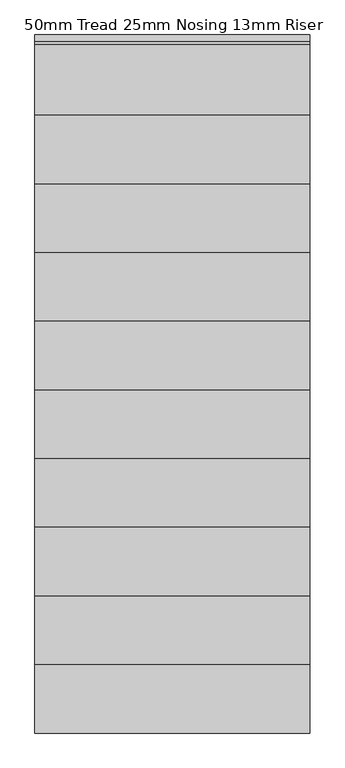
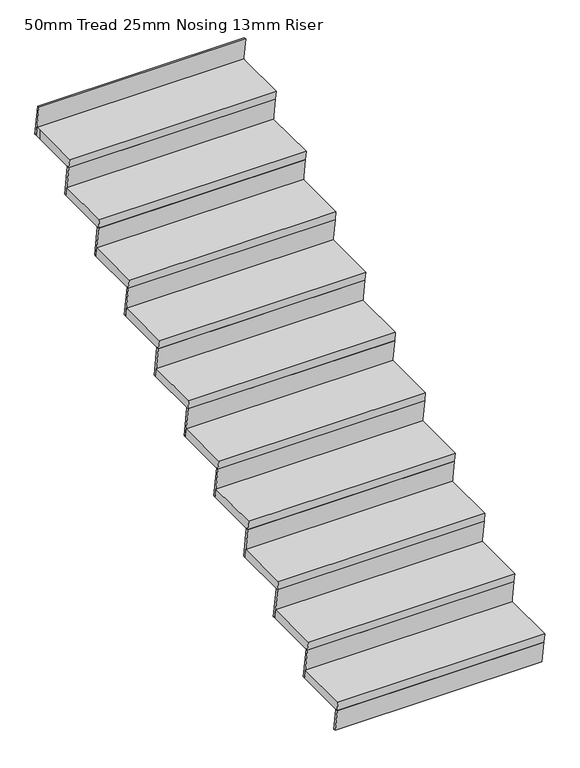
"""IFC4 building model written with IfcOpenShell, lengths in millimetres: stair flight geometry, 50mm Tread 25mm Nosing 13mm Riser."""

from ifc_helpers import new_model, si_unit, origin, place, context, project, spatial, faceted_brep, source, transform, mapped, element, save


def stair_flight_50mm_tread_25mm_nosing_13mm_riser_00f31970(model_context):
    return source(origin(), model_context, "Body", "Brep", [
        faceted_brep([(3668.6567657, -13073.8611817, 172.7272727), (3668.6567657, -13066.6243396, 122.7272727), (2568.6567657, -13066.6243396, 122.7272727), (2568.6567657, -13073.8611817, 172.7272727), (2568.6567657, -13373.8611817, 172.7272727), (3668.6567657, -13373.8611817, 172.7272727), (3668.6567657, -13366.6243396, 122.7272727), (2568.6567657, -13366.6243396, 122.7272727)], [[[0, 1, 2, 3]], [[3, 4, 5, 0]], [[2, 1, 6, 7]], [[4, 3, 2, 7]], [[0, 5, 6, 1]], [[5, 4, 7, 6]]]),
        faceted_brep([(3668.6567657, -13366.6243396, 122.7272727), (3668.6567657, -13348.8611817, 0.0), (3668.6567657, -13336.2309306, 0.0), (3668.6567657, -13353.9940885, 122.7272727), (2568.6567657, -13366.6243396, 122.7272727), (2568.6567657, -13353.9940885, 122.7272727), (2568.6567657, -13336.2309306, 0.0), (2568.6567657, -13348.8611817, 0.0)], [[[0, 1, 2, 3]], [[4, 5, 6, 7]], [[1, 0, 4, 7]], [[2, 1, 7, 6]], [[3, 2, 6, 5]], [[0, 3, 5, 4]]]),
        faceted_brep([(3668.6567657, -13091.6243396, 295.4545455), (3668.6567657, -13066.6243396, 122.7272727), (3668.6567657, -13053.9940885, 122.7272727), (3668.6567657, -13078.9940885, 295.4545455), (2568.6567657, -13091.6243396, 295.4545455), (2568.6567657, -13078.9940885, 295.4545455), (2568.6567657, -13053.9940885, 122.7272727), (2568.6567657, -13066.6243396, 122.7272727)], [[[0, 1, 2, 3]], [[4, 5, 6, 7]], [[1, 0, 4, 7]], [[2, 1, 7, 6]], [[3, 2, 6, 5]], [[0, 3, 5, 4]]]),
        faceted_brep([(2568.6567657, -12798.8611817, 345.4545455), (2568.6567657, -13098.8611817, 345.4545455), (3668.6567657, -13098.8611817, 345.4545455), (3668.6567657, -12798.8611817, 345.4545455), (2568.6567657, -12791.6243396, 295.4545455), (3668.6567657, -12791.6243396, 295.4545455), (3668.6567657, -13091.6243396, 295.4545455), (2568.6567657, -13091.6243396, 295.4545455)], [[[0, 1, 2, 3]], [[4, 5, 6, 7]], [[1, 0, 4, 7]], [[3, 2, 6, 5]], [[3, 5, 4, 0]], [[2, 1, 7, 6]]]),
        faceted_brep([(3668.6567657, -12816.6243396, 468.1818182), (3668.6567657, -12791.6243396, 295.4545455), (3668.6567657, -12778.9940885, 295.4545455), (3668.6567657, -12803.9940885, 468.1818182), (2568.6567657, -12816.6243396, 468.1818182), (2568.6567657, -12803.9940885, 468.1818182), (2568.6567657, -12778.9940885, 295.4545455), (2568.6567657, -12791.6243396, 295.4545455)], [[[0, 1, 2, 3]], [[4, 5, 6, 7]], [[1, 0, 4, 7]], [[2, 1, 7, 6]], [[3, 2, 6, 5]], [[0, 3, 5, 4]]]),
        faceted_brep([(2568.6567657, -12523.8611817, 518.1818182), (2568.6567657, -12823.8611817, 518.1818182), (3668.6567657, -12823.8611817, 518.1818182), (3668.6567657, -12523.8611817, 518.1818182), (2568.6567657, -12516.6243396, 468.1818182), (3668.6567657, -12516.6243396, 468.1818182), (3668.6567657, -12816.6243396, 468.1818182), (2568.6567657, -12816.6243396, 468.1818182)], [[[0, 1, 2, 3]], [[4, 5, 6, 7]], [[1, 0, 4, 7]], [[3, 2, 6, 5]], [[3, 5, 4, 0]], [[2, 1, 7, 6]]]),
        faceted_brep([(3668.6567657, -12541.6243396, 640.9090909), (3668.6567657, -12516.6243396, 468.1818182), (3668.6567657, -12503.9940885, 468.1818182), (3668.6567657, -12528.9940885, 640.9090909), (2568.6567657, -12541.6243396, 640.9090909), (2568.6567657, -12528.9940885, 640.9090909), (2568.6567657, -12503.9940885, 468.1818182), (2568.6567657, -12516.6243396, 468.1818182)], [[[0, 1, 2, 3]], [[4, 5, 6, 7]], [[1, 0, 4, 7]], [[2, 1, 7, 6]], [[3, 2, 6, 5]], [[0, 3, 5, 4]]]),
        faceted_brep([(2568.6567657, -12248.8611817, 690.9090909), (2568.6567657, -12548.8611817, 690.9090909), (3668.6567657, -12548.8611817, 690.9090909), (3668.6567657, -12248.8611817, 690.9090909), (2568.6567657, -12241.6243396, 640.9090909), (3668.6567657, -12241.6243396, 640.9090909), (3668.6567657, -12541.6243396, 640.9090909), (2568.6567657, -12541.6243396, 640.9090909)], [[[0, 1, 2, 3]], [[4, 5, 6, 7]], [[1, 0, 4, 7]], [[3, 2, 6, 5]], [[3, 5, 4, 0]], [[2, 1, 7, 6]]]),
        faceted_brep([(3668.6567657, -12266.6243396, 813.6363636), (3668.6567657, -12241.6243396, 640.9090909), (3668.6567657, -12228.9940885, 640.9090909), (3668.6567657, -12253.9940885, 813.6363636), (2568.6567657, -12266.6243396, 813.6363636), (2568.6567657, -12253.9940885, 813.6363636), (2568.6567657, -12228.9940885, 640.9090909), (2568.6567657, -12241.6243396, 640.9090909)], [[[0, 1, 2, 3]], [[4, 5, 6, 7]], [[1, 0, 4, 7]], [[2, 1, 7, 6]], [[3, 2, 6, 5]], [[0, 3, 5, 4]]]),
        faceted_brep([(2568.6567657, -11973.8611817, 863.6363636), (2568.6567657, -12273.8611817, 863.6363636), (3668.6567657, -12273.8611817, 863.6363636), (3668.6567657, -11973.8611817, 863.6363636), (2568.6567657, -11966.6243396, 813.6363636), (3668.6567657, -11966.6243396, 813.6363636), (3668.6567657, -12266.6243396, 813.6363636), (2568.6567657, -12266.6243396, 813.6363636)], [[[0, 1, 2, 3]], [[4, 5, 6, 7]], [[1, 0, 4, 7]], [[3, 2, 6, 5]], [[3, 5, 4, 0]], [[2, 1, 7, 6]]]),
        faceted_brep([(3668.6567657, -11991.6243396, 986.3636364), (3668.6567657, -11966.6243396, 813.6363636), (3668.6567657, -11953.9940885, 813.6363636), (3668.6567657, -11978.9940885, 986.3636364), (2568.6567657, -11991.6243396, 986.3636364), (2568.6567657, -11978.9940885, 986.3636364), (2568.6567657, -11953.9940885, 813.6363636), (2568.6567657, -11966.6243396, 813.6363636)], [[[0, 1, 2, 3]], [[4, 5, 6, 7]], [[1, 0, 4, 7]], [[2, 1, 7, 6]], [[3, 2, 6, 5]], [[0, 3, 5, 4]]]),
        faceted_brep([(2568.6567657, -11698.8611817, 1036.3636364), (2568.6567657, -11998.8611817, 1036.3636364), (3668.6567657, -11998.8611817, 1036.3636364), (3668.6567657, -11698.8611817, 1036.3636364), (2568.6567657, -11691.6243396, 986.3636364), (3668.6567657, -11691.6243396, 986.3636364), (3668.6567657, -11991.6243396, 986.3636364), (2568.6567657, -11991.6243396, 986.3636364)], [[[0, 1, 2, 3]], [[4, 5, 6, 7]], [[1, 0, 4, 7]], [[3, 2, 6, 5]], [[3, 5, 4, 0]], [[2, 1, 7, 6]]]),
        faceted_brep([(3668.6567657, -11716.6243396, 1159.0909091), (3668.6567657, -11691.6243396, 986.3636364), (3668.6567657, -11678.9940885, 986.3636364), (3668.6567657, -11703.9940885, 1159.0909091), (2568.6567657, -11716.6243396, 1159.0909091), (2568.6567657, -11703.9940885, 1159.0909091), (2568.6567657, -11678.9940885, 986.3636364), (2568.6567657, -11691.6243396, 986.3636364)], [[[0, 1, 2, 3]], [[4, 5, 6, 7]], [[1, 0, 4, 7]], [[2, 1, 7, 6]], [[3, 2, 6, 5]], [[0, 3, 5, 4]]]),
        faceted_brep([(2568.6567657, -11423.8611817, 1209.0909091), (2568.6567657, -11723.8611817, 1209.0909091), (3668.6567657, -11723.8611817, 1209.0909091), (3668.6567657, -11423.8611817, 1209.0909091), (2568.6567657, -11416.6243396, 1159.0909091), (3668.6567657, -11416.6243396, 1159.0909091), (3668.6567657, -11716.6243396, 1159.0909091), (2568.6567657, -11716.6243396, 1159.0909091)], [[[0, 1, 2, 3]], [[4, 5, 6, 7]], [[1, 0, 4, 7]], [[3, 2, 6, 5]], [[3, 5, 4, 0]], [[2, 1, 7, 6]]]),
        faceted_brep([(3668.6567657, -11441.6243396, 1331.8181818), (3668.6567657, -11416.6243396, 1159.0909091), (3668.6567657, -11403.9940885, 1159.0909091), (3668.6567657, -11428.9940885, 1331.8181818), (2568.6567657, -11441.6243396, 1331.8181818), (2568.6567657, -11428.9940885, 1331.8181818), (2568.6567657, -11403.9940885, 1159.0909091), (2568.6567657, -11416.6243396, 1159.0909091)], [[[0, 1, 2, 3]], [[4, 5, 6, 7]], [[1, 0, 4, 7]], [[2, 1, 7, 6]], [[3, 2, 6, 5]], [[0, 3, 5, 4]]]),
        faceted_brep([(2568.6567657, -11148.8611817, 1381.8181818), (2568.6567657, -11448.8611817, 1381.8181818), (3668.6567657, -11448.8611817, 1381.8181818), (3668.6567657, -11148.8611817, 1381.8181818), (2568.6567657, -11141.6243396, 1331.8181818), (3668.6567657, -11141.6243396, 1331.8181818), (3668.6567657, -11441.6243396, 1331.8181818), (2568.6567657, -11441.6243396, 1331.8181818)], [[[0, 1, 2, 3]], [[4, 5, 6, 7]], [[1, 0, 4, 7]], [[3, 2, 6, 5]], [[3, 5, 4, 0]], [[2, 1, 7, 6]]]),
        faceted_brep([(3668.6567657, -11166.6243396, 1504.5454545), (3668.6567657, -11141.6243396, 1331.8181818), (3668.6567657, -11128.9940885, 1331.8181818), (3668.6567657, -11153.9940885, 1504.5454545), (2568.6567657, -11166.6243396, 1504.5454545), (2568.6567657, -11153.9940885, 1504.5454545), (2568.6567657, -11128.9940885, 1331.8181818), (2568.6567657, -11141.6243396, 1331.8181818)], [[[0, 1, 2, 3]], [[4, 5, 6, 7]], [[1, 0, 4, 7]], [[2, 1, 7, 6]], [[3, 2, 6, 5]], [[0, 3, 5, 4]]]),
        faceted_brep([(2568.6567657, -10873.8611817, 1554.5454545), (2568.6567657, -11173.8611817, 1554.5454545), (3668.6567657, -11173.8611817, 1554.5454545), (3668.6567657, -10873.8611817, 1554.5454545), (2568.6567657, -10866.6243396, 1504.5454545), (3668.6567657, -10866.6243396, 1504.5454545), (3668.6567657, -11166.6243396, 1504.5454545), (2568.6567657, -11166.6243396, 1504.5454545)], [[[0, 1, 2, 3]], [[4, 5, 6, 7]], [[1, 0, 4, 7]], [[3, 2, 6, 5]], [[3, 5, 4, 0]], [[2, 1, 7, 6]]]),
        faceted_brep([(3668.6567657, -10616.6243396, 1850.0), (3668.6567657, -10591.6243396, 1677.2727273), (3668.6567657, -10578.9940885, 1677.2727273), (3668.6567657, -10603.9940885, 1850.0), (2568.6567657, -10616.6243396, 1850.0), (2568.6567657, -10603.9940885, 1850.0), (2568.6567657, -10578.9940885, 1677.2727273), (2568.6567657, -10591.6243396, 1677.2727273)], [[[0, 1, 2, 3]], [[4, 5, 6, 7]], [[1, 0, 4, 7]], [[2, 1, 7, 6]], [[3, 2, 6, 5]], [[0, 3, 5, 4]]]),
        faceted_brep([(3668.6567657, -10891.6243396, 1677.2727273), (3668.6567657, -10866.6243396, 1504.5454545), (3668.6567657, -10853.9940885, 1504.5454545), (3668.6567657, -10878.9940885, 1677.2727273), (2568.6567657, -10891.6243396, 1677.2727273), (2568.6567657, -10878.9940885, 1677.2727273), (2568.6567657, -10853.9940885, 1504.5454545), (2568.6567657, -10866.6243396, 1504.5454545)], [[[0, 1, 2, 3]], [[4, 5, 6, 7]], [[1, 0, 4, 7]], [[2, 1, 7, 6]], [[3, 2, 6, 5]], [[0, 3, 5, 4]]]),
        faceted_brep([(2568.6567657, -10598.8611817, 1727.2727273), (2568.6567657, -10623.8611817, 1727.2727273), (2568.6567657, -10898.8611817, 1727.2727273), (3668.6567657, -10898.8611817, 1727.2727273), (3668.6567657, -10623.8611817, 1727.2727273), (3668.6567657, -10598.8611817, 1727.2727273), (2568.6567657, -10591.6243396, 1677.2727273), (3668.6567657, -10591.6243396, 1677.2727273), (3668.6567657, -10623.8611817, 1677.2727273), (3668.6567657, -10891.6243396, 1677.2727273), (2568.6567657, -10891.6243396, 1677.2727273), (2568.6567657, -10623.8611817, 1677.2727273)], [[[0, 1, 2, 3, 4, 5]], [[6, 7, 8, 9, 10, 11]], [[1, 0, 6, 11]], [[2, 1, 11, 10]], [[4, 3, 9, 8]], [[5, 4, 8, 7]], [[5, 7, 6, 0]], [[3, 2, 10, 9]]]),
    ])


if __name__ == "__main__":
    model = new_model("IFC4")
    model_context = context("Model", 3, world=origin())
    ifc_project = project(units=[si_unit("LENGTHUNIT", "METRE", prefix="MILLI")], contexts=[model_context])
    site = spatial("IfcSite", under=ifc_project)
    building = spatial("IfcBuilding", under=site)
    placement = place(None, origin())
    stair_flight_50mm_tread_25mm_nosing_13mm_riser_shape = stair_flight_50mm_tread_25mm_nosing_13mm_riser_00f31970(model_context)
    element("IfcStairFlight", 1, ObjectType="50mm Tread 25mm Nosing 13mm Riser", at=placement, inside=building, context=model_context, shape_type="MappedRepresentation", body=[
        mapped(stair_flight_50mm_tread_25mm_nosing_13mm_riser_shape, transform((0.0, 0.0, 0.0), x_axis=(1.0, 0.0, 0.0), y_axis=(0.0, 1.0, 0.0), z_axis=(0.0, 0.0, 1.0))),
    ])
    save(model, "model.ifc")
